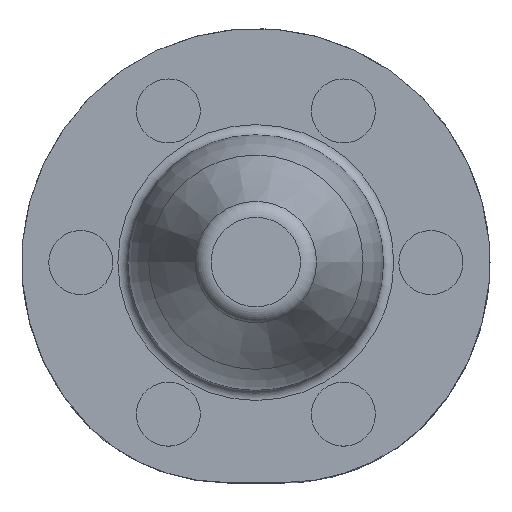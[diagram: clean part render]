
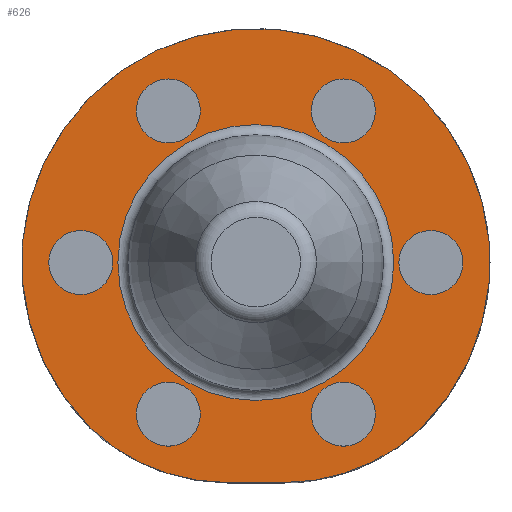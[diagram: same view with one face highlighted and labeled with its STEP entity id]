
A CAD part, top view. The second image highlights one B-rep face of the part: STEP entity #626.
In plain terms, the highlighted planar face has unit normal (0, 0, 1).
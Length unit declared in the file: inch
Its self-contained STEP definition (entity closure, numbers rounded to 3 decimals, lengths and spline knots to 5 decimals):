
#13 = FACE_BOUND ( 'NONE', #400, .T. ) ;
#14 = VERTEX_POINT ( 'NONE', #94 ) ;
#27 = CIRCLE ( 'NONE', #887, 0.2025 ) ;
#30 = EDGE_CURVE ( 'NONE', #340, #340, #476, .T. ) ;
#44 = AXIS2_PLACEMENT_3D ( 'NONE', #382, #754, #533 ) ;
#45 = CARTESIAN_POINT ( 'NONE',  ( 0.0815, 0.22257, -0.015 ) ) ;
#80 = CIRCLE ( 'NONE', #146, 0.047 ) ;
#85 = ORIENTED_EDGE ( 'NONE', *, *, #209, .T. ) ;
#94 = CARTESIAN_POINT ( 'NONE',  ( -0.2335, -0.0407, -0.015 ) ) ;
#95 = VERTEX_POINT ( 'NONE', #699 ) ;
#120 = CARTESIAN_POINT ( 'NONE',  ( 0.2335, 0.0407, -0.015 ) ) ;
#122 = ORIENTED_EDGE ( 'NONE', *, *, #30, .F. ) ;
#129 = CARTESIAN_POINT ( 'NONE',  ( 0.2025, 0., -0.015 ) ) ;
#132 = AXIS2_PLACEMENT_3D ( 'NONE', #341, #136, #713 ) ;
#133 = VERTEX_POINT ( 'NONE', #45 ) ;
#136 = DIRECTION ( 'NONE',  ( 0., 0., 1. ) ) ;
#146 = AXIS2_PLACEMENT_3D ( 'NONE', #456, #369, #511 ) ;
#162 = CARTESIAN_POINT ( 'NONE',  ( 0.04112, -0.028, -0.015 ) ) ;
#167 = EDGE_LOOP ( 'NONE', ( #122 ) ) ;
#185 = ORIENTED_EDGE ( 'NONE', *, *, #702, .F. ) ;
#189 = DIRECTION ( 'NONE',  ( 0., 0., 1. ) ) ;
#200 = ORIENTED_EDGE ( 'NONE', *, *, #924, .F. ) ;
#209 = EDGE_CURVE ( 'NONE', #468, #468, #27, .T. ) ;
#210 = CARTESIAN_POINT ( 'NONE',  ( 0.152, -0.18187, -0.015 ) ) ;
#215 = EDGE_LOOP ( 'NONE', ( #770 ) ) ;
#223 = DIRECTION ( 'NONE',  ( 1., 0., 0. ) ) ;
#229 = DIRECTION ( 'NONE',  ( 0., 0., 1. ) ) ;
#245 = FACE_BOUND ( 'NONE', #167, .T. ) ;
#250 = CARTESIAN_POINT ( 'NONE',  ( -0.152, 0.18187, -0.015 ) ) ;
#271 = CIRCLE ( 'NONE', #132, 0.047 ) ;
#297 = AXIS2_PLACEMENT_3D ( 'NONE', #732, #299, #584 ) ;
#299 = DIRECTION ( 'NONE',  ( 0., 0., 1. ) ) ;
#303 = FACE_BOUND ( 'NONE', #917, .T. ) ;
#309 = CARTESIAN_POINT ( 'NONE',  ( 0., 0., -0.015 ) ) ;
#316 = DIRECTION ( 'NONE',  ( 0., 0., 1. ) ) ;
#321 = LINE ( 'NONE', #817, #543 ) ;
#340 = VERTEX_POINT ( 'NONE', #120 ) ;
#341 = CARTESIAN_POINT ( 'NONE',  ( 0.1285, 0.22257, -0.015 ) ) ;
#352 = FACE_BOUND ( 'NONE', #750, .T. ) ;
#358 = EDGE_CURVE ( 'NONE', #757, #757, #831, .T. ) ;
#359 = DIRECTION ( 'NONE',  ( 0., 0., -1. ) ) ;
#369 = DIRECTION ( 'NONE',  ( 0., 0., 1. ) ) ;
#378 = CARTESIAN_POINT ( 'NONE',  ( -0.2435, -0.24264, -0.015 ) ) ;
#382 = CARTESIAN_POINT ( 'NONE',  ( -0.257, 0., -0.015 ) ) ;
#399 = DIRECTION ( 'NONE',  ( 1., 0., 0. ) ) ;
#400 = EDGE_LOOP ( 'NONE', ( #85 ) ) ;
#405 = EDGE_LOOP ( 'NONE', ( #595 ) ) ;
#406 = EDGE_CURVE ( 'NONE', #133, #133, #271, .T. ) ;
#415 = DIRECTION ( 'NONE',  ( 0., 0., 1. ) ) ;
#426 = EDGE_CURVE ( 'NONE', #820, #556, #860, .T. ) ;
#432 = CARTESIAN_POINT ( 'NONE',  ( -0.04112, -0.323, -0.015 ) ) ;
#433 = VERTEX_POINT ( 'NONE', #612 ) ;
#456 = CARTESIAN_POINT ( 'NONE',  ( -0.1285, -0.22257, -0.015 ) ) ;
#457 = VERTEX_POINT ( 'NONE', #250 ) ;
#462 = CARTESIAN_POINT ( 'NONE',  ( -0.0815, -0.22257, -0.015 ) ) ;
#466 = DIRECTION ( 'NONE',  ( -0.5, 0.866, 0. ) ) ;
#468 = VERTEX_POINT ( 'NONE', #129 ) ;
#476 = CIRCLE ( 'NONE', #821, 0.047 ) ;
#511 = DIRECTION ( 'NONE',  ( 1., 0., 0. ) ) ;
#533 = DIRECTION ( 'NONE',  ( 0.5, -0.866, 0. ) ) ;
#535 = EDGE_LOOP ( 'NONE', ( #185 ) ) ;
#541 = DIRECTION ( 'NONE',  ( 0.5, 0.866, 0. ) ) ;
#543 = VECTOR ( 'NONE', #594, 39.37008 ) ;
#547 = ORIENTED_EDGE ( 'NONE', *, *, #637, .T. ) ;
#556 = VERTEX_POINT ( 'NONE', #432 ) ;
#558 = CIRCLE ( 'NONE', #899, 0.34375 ) ;
#559 = DIRECTION ( 'NONE',  ( 1., 0., 0. ) ) ;
#575 = CIRCLE ( 'NONE', #590, 0.295 ) ;
#583 = FACE_BOUND ( 'NONE', #405, .T. ) ;
#584 = DIRECTION ( 'NONE',  ( -0.5, -0.866, 0. ) ) ;
#590 = AXIS2_PLACEMENT_3D ( 'NONE', #162, #743, #811 ) ;
#594 = DIRECTION ( 'NONE',  ( 1., 0., 0. ) ) ;
#595 = ORIENTED_EDGE ( 'NONE', *, *, #358, .F. ) ;
#601 = PLANE ( 'NONE',  #718 ) ;
#607 = FACE_BOUND ( 'NONE', #215, .T. ) ;
#608 = VERTEX_POINT ( 'NONE', #462 ) ;
#612 = CARTESIAN_POINT ( 'NONE',  ( 0.2435, -0.24264, -0.015 ) ) ;
#624 = ORIENTED_EDGE ( 'NONE', *, *, #788, .T. ) ;
#626 = ADVANCED_FACE ( 'NONE', ( #352, #303, #607, #245, #583, #664, #13, #898 ), #601, .T. ) ;
#629 = DIRECTION ( 'NONE',  ( 0., 0., 1. ) ) ;
#634 = EDGE_LOOP ( 'NONE', ( #624, #859, #756, #547 ) ) ;
#637 = EDGE_CURVE ( 'NONE', #95, #433, #575, .T. ) ;
#664 = FACE_BOUND ( 'NONE', #535, .T. ) ;
#681 = EDGE_CURVE ( 'NONE', #556, #95, #321, .T. ) ;
#699 = CARTESIAN_POINT ( 'NONE',  ( 0.04112, -0.323, -0.015 ) ) ;
#702 = EDGE_CURVE ( 'NONE', #608, #608, #80, .T. ) ;
#713 = DIRECTION ( 'NONE',  ( -1., 0., 0. ) ) ;
#715 = CARTESIAN_POINT ( 'NONE',  ( 0., 0., -0.015 ) ) ;
#718 = AXIS2_PLACEMENT_3D ( 'NONE', #799, #316, #871 ) ;
#732 = CARTESIAN_POINT ( 'NONE',  ( -0.1285, 0.22257, -0.015 ) ) ;
#743 = DIRECTION ( 'NONE',  ( 0., 0., 1. ) ) ;
#750 = EDGE_LOOP ( 'NONE', ( #775 ) ) ;
#754 = DIRECTION ( 'NONE',  ( 0., 0., 1. ) ) ;
#756 = ORIENTED_EDGE ( 'NONE', *, *, #681, .T. ) ;
#757 = VERTEX_POINT ( 'NONE', #210 ) ;
#758 = CARTESIAN_POINT ( 'NONE',  ( -0.04112, -0.028, -0.015 ) ) ;
#770 = ORIENTED_EDGE ( 'NONE', *, *, #406, .F. ) ;
#775 = ORIENTED_EDGE ( 'NONE', *, *, #827, .F. ) ;
#788 = EDGE_CURVE ( 'NONE', #433, #820, #558, .T. ) ;
#798 = AXIS2_PLACEMENT_3D ( 'NONE', #916, #415, #541 ) ;
#799 = CARTESIAN_POINT ( 'NONE',  ( 0., 0., -0.015 ) ) ;
#811 = DIRECTION ( 'NONE',  ( 1., 0., 0. ) ) ;
#817 = CARTESIAN_POINT ( 'NONE',  ( 0., -0.323, -0.015 ) ) ;
#820 = VERTEX_POINT ( 'NONE', #378 ) ;
#821 = AXIS2_PLACEMENT_3D ( 'NONE', #903, #189, #466 ) ;
#827 = EDGE_CURVE ( 'NONE', #14, #14, #865, .T. ) ;
#831 = CIRCLE ( 'NONE', #798, 0.047 ) ;
#839 = CIRCLE ( 'NONE', #297, 0.047 ) ;
#859 = ORIENTED_EDGE ( 'NONE', *, *, #426, .T. ) ;
#860 = CIRCLE ( 'NONE', #897, 0.295 ) ;
#865 = CIRCLE ( 'NONE', #44, 0.047 ) ;
#871 = DIRECTION ( 'NONE',  ( 1., 0., 0. ) ) ;
#887 = AXIS2_PLACEMENT_3D ( 'NONE', #715, #359, #223 ) ;
#897 = AXIS2_PLACEMENT_3D ( 'NONE', #758, #629, #399 ) ;
#898 = FACE_OUTER_BOUND ( 'NONE', #634, .T. ) ;
#899 = AXIS2_PLACEMENT_3D ( 'NONE', #309, #229, #559 ) ;
#903 = CARTESIAN_POINT ( 'NONE',  ( 0.257, 0., -0.015 ) ) ;
#916 = CARTESIAN_POINT ( 'NONE',  ( 0.1285, -0.22257, -0.015 ) ) ;
#917 = EDGE_LOOP ( 'NONE', ( #200 ) ) ;
#924 = EDGE_CURVE ( 'NONE', #457, #457, #839, .T. ) ;
